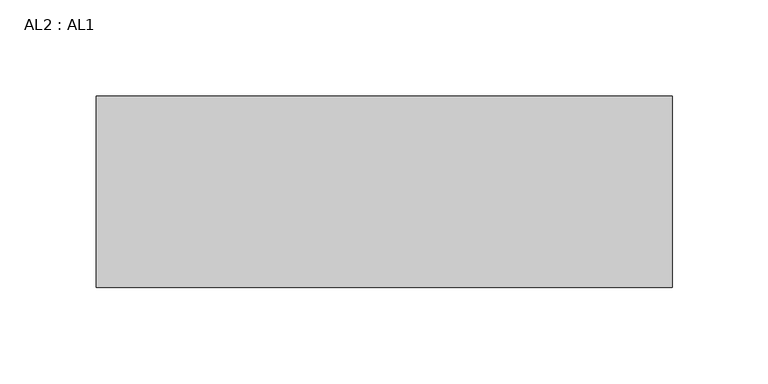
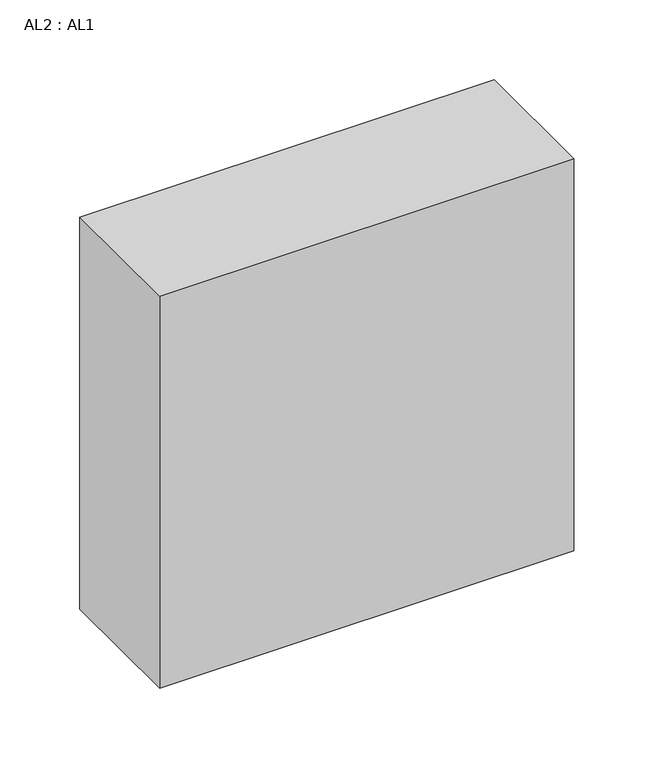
"""IFC4 building model written with IfcOpenShell, lengths in millimetres: proxy geometry, AL2 : AL1."""

from ifc_helpers import new_model, si_unit, frame, origin, place, context, project, spatial, polyline, outline, extrude, source, transform, mapped, element, save


def al2_al1_c94165ea(model_context):
    return source(origin(), model_context, "Body", "SweptSolid", [
        extrude(outline(polyline([(22142.1746511, -3903.6777405), (22142.1746511, -4003.6777405), (21842.1746511, -4003.6777405), (21842.1746511, -3903.6777405), (22142.1746511, -3903.6777405)])), frame((0.0, 0.0, 2550.0), z_axis=(0.0, 0.0, 1.0), x_axis=(1.0, 0.0, 0.0)), (0.0, 0.0, 1.0), 300.0),
    ])


if __name__ == "__main__":
    model = new_model("IFC4")
    model_context = context("Model", 3, world=origin())
    ifc_project = project(units=[si_unit("LENGTHUNIT", "METRE", prefix="MILLI")], contexts=[model_context])
    site = spatial("IfcSite", under=ifc_project)
    building = spatial("IfcBuilding", under=site)
    placement = place(None, origin())
    al2_al1_shape = al2_al1_c94165ea(model_context)
    element("IfcBuildingElementProxy", 1, Name="AL2 : AL1", ObjectType="AL2 : AL1", at=placement, inside=building, context=model_context, shape_type="MappedRepresentation", body=[
        mapped(al2_al1_shape, transform((0.0, 0.0, 0.0), x_axis=(1.0, 0.0, 0.0), y_axis=(0.0, 1.0, 0.0), z_axis=(0.0, 0.0, 1.0))),
    ])
    save(model, "model.ifc")
